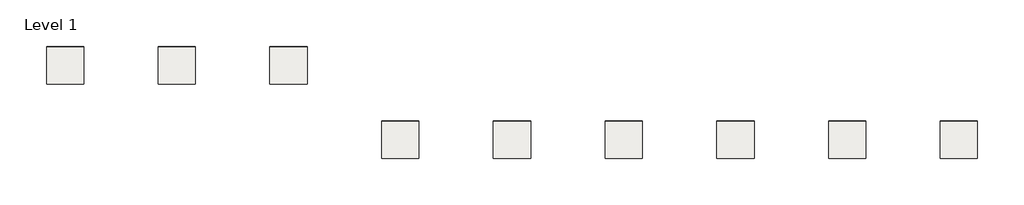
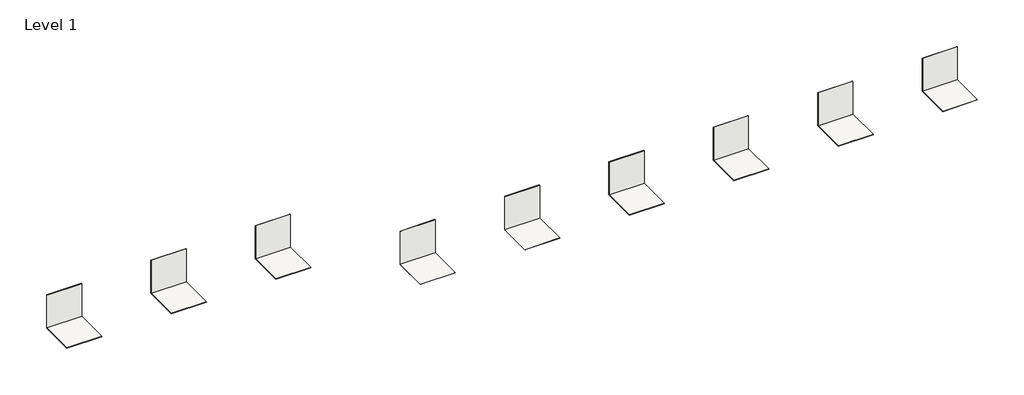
# One storey: 18 coverings.
"""IFC4 building model written with IfcOpenShell, lengths in millimetres."""

from ifc_helpers import new_model, si_unit, frame, origin, origin_with_axes, place, context, project, spatial, polyline, outline, extrude, element, save

model = new_model("IFC4")

# Units and contexts
model_context = context("Model", 3, world=origin())
ifc_project = project(units=[si_unit("LENGTHUNIT", "METRE", prefix="MILLI")], contexts=[model_context])

# Site, building, storey
site = spatial("IfcSite", under=ifc_project)
building = spatial("IfcBuilding", under=site)
storey = spatial("IfcBuildingStorey", under=building, Name="Level 1", Elevation=0.0)

# Coverings
placement = place(None, origin())
element("IfcCovering", 1, ObjectType="REVIGRÉS-NORDIK-DECOR-19.5x19.5-MATTRECT-LOKI ALMOND", at=placement, inside=storey, context=model_context, shape_type="SweptSolid", body=[
    extrude(outline(polyline([(-4144.7065846, 7140.2812373), (-5144.7065846, 7140.2812373), (-5144.7065846, 7150.7812373), (-4144.7065846, 7150.7812373), (-4144.7065846, 7140.2812373)])), origin_with_axes(), (0.0, 0.0, 1.0), 1000.0),
])
element("IfcCovering", 2, ObjectType="REVIGRÉS-NORDIK-DECOR-19.5x19.5-MATTRECT-LOKI ALMOND", at=placement, inside=storey, context=model_context, shape_type="SweptSolid", body=[
    extrude(outline(polyline([(-4144.7065846, 7140.2812373), (-4144.7065846, 6141.2812373), (-5144.7065846, 6141.2812373), (-5144.7065846, 7140.2812373), (-4144.7065846, 7140.2812373)])), frame((0.0, 0.0, -10.5), z_axis=(0.0, 0.0, 1.0), x_axis=(1.0, 0.0, 0.0)), (0.0, 0.0, 1.0), 10.5),
])
element("IfcCovering", 3, ObjectType="REVIGRÉS-NORDIK-DECOR-19.5x19.5-MATTRECT-LOKI HONEY", at=placement, inside=storey, context=model_context, shape_type="SweptSolid", body=[
    extrude(outline(polyline([(-1144.7065846, 7140.2812373), (-2144.7065846, 7140.2812373), (-2144.7065846, 7150.7812373), (-1144.7065846, 7150.7812373), (-1144.7065846, 7140.2812373)])), origin_with_axes(), (0.0, 0.0, 1.0), 1000.0),
])
element("IfcCovering", 4, ObjectType="REVIGRÉS-NORDIK-DECOR-19.5x19.5-MATTRECT-LOKI HONEY", at=placement, inside=storey, context=model_context, shape_type="SweptSolid", body=[
    extrude(outline(polyline([(-1144.7065846, 7140.2812373), (-1144.7065846, 6141.2812373), (-2144.7065846, 6141.2812373), (-2144.7065846, 7140.2812373), (-1144.7065846, 7140.2812373)])), frame((0.0, 0.0, -10.5), z_axis=(0.0, 0.0, 1.0), x_axis=(1.0, 0.0, 0.0)), (0.0, 0.0, 1.0), 10.5),
])
element("IfcCovering", 5, ObjectType="REVIGRÉS-NORDIK-DECOR-19.5x19.5-MATTRECT-LOKI WALNUT", at=placement, inside=storey, context=model_context, shape_type="SweptSolid", body=[
    extrude(outline(polyline([(1855.2934154, 7140.2812373), (855.2934154, 7140.2812373), (855.2934154, 7150.7812373), (1855.2934154, 7150.7812373), (1855.2934154, 7140.2812373)])), origin_with_axes(), (0.0, 0.0, 1.0), 1000.0),
])
element("IfcCovering", 6, ObjectType="REVIGRÉS-NORDIK-DECOR-19.5x19.5-MATTRECT-LOKI WALNUT", at=placement, inside=storey, context=model_context, shape_type="SweptSolid", body=[
    extrude(outline(polyline([(1855.2934154, 7140.2812373), (1855.2934154, 6141.2812373), (855.2934154, 6141.2812373), (855.2934154, 7140.2812373), (1855.2934154, 7140.2812373)])), frame((0.0, 0.0, -10.5), z_axis=(0.0, 0.0, 1.0), x_axis=(1.0, 0.0, 0.0)), (0.0, 0.0, 1.0), 10.5),
])
element("IfcCovering", 7, ObjectType="REVIGRÉS-NORDIK-DECOR-36x43-MATTRECT-GRID ALMOND", at=placement, inside=storey, context=model_context, shape_type="SweptSolid", body=[
    extrude(outline(polyline([(4855.2934154, 5140.2812373), (3855.2934154, 5140.2812373), (3855.2934154, 5150.7812373), (4855.2934154, 5150.7812373), (4855.2934154, 5140.2812373)])), origin_with_axes(), (0.0, 0.0, 1.0), 1000.0),
])
element("IfcCovering", 8, ObjectType="REVIGRÉS-NORDIK-DECOR-36x43-MATTRECT-GRID ALMOND", at=placement, inside=storey, context=model_context, shape_type="SweptSolid", body=[
    extrude(outline(polyline([(4855.2934154, 5140.2812373), (4855.2934154, 4141.2812373), (3855.2934154, 4141.2812373), (3855.2934154, 5140.2812373), (4855.2934154, 5140.2812373)])), frame((0.0, 0.0, -10.5), z_axis=(0.0, 0.0, 1.0), x_axis=(1.0, 0.0, 0.0)), (0.0, 0.0, 1.0), 10.5),
])
element("IfcCovering", 9, ObjectType="REVIGRÉS-NORDIK-DECOR-36x43-MATTRECT-GRID CHERRY", at=placement, inside=storey, context=model_context, shape_type="SweptSolid", body=[
    extrude(outline(polyline([(7855.2934154, 5140.2812373), (6855.2934154, 5140.2812373), (6855.2934154, 5150.7812373), (7855.2934154, 5150.7812373), (7855.2934154, 5140.2812373)])), origin_with_axes(), (0.0, 0.0, 1.0), 1000.0),
])
element("IfcCovering", 10, ObjectType="REVIGRÉS-NORDIK-DECOR-36x43-MATTRECT-GRID CHERRY", at=placement, inside=storey, context=model_context, shape_type="SweptSolid", body=[
    extrude(outline(polyline([(7855.2934154, 5140.2812373), (7855.2934154, 4141.2812373), (6855.2934154, 4141.2812373), (6855.2934154, 5140.2812373), (7855.2934154, 5140.2812373)])), frame((0.0, 0.0, -10.5), z_axis=(0.0, 0.0, 1.0), x_axis=(1.0, 0.0, 0.0)), (0.0, 0.0, 1.0), 10.5),
])
element("IfcCovering", 11, ObjectType="REVIGRÉS-NORDIK-DECOR-36x43-MATTRECT-GRID HONEY", at=placement, inside=storey, context=model_context, shape_type="SweptSolid", body=[
    extrude(outline(polyline([(10855.2934154, 5140.2812373), (9855.2934154, 5140.2812373), (9855.2934154, 5150.7812373), (10855.2934154, 5150.7812373), (10855.2934154, 5140.2812373)])), origin_with_axes(), (0.0, 0.0, 1.0), 1000.0),
])
element("IfcCovering", 12, ObjectType="REVIGRÉS-NORDIK-DECOR-36x43-MATTRECT-GRID HONEY", at=placement, inside=storey, context=model_context, shape_type="SweptSolid", body=[
    extrude(outline(polyline([(10855.2934154, 5140.2812373), (10855.2934154, 4141.2812373), (9855.2934154, 4141.2812373), (9855.2934154, 5140.2812373), (10855.2934154, 5140.2812373)])), frame((0.0, 0.0, -10.5), z_axis=(0.0, 0.0, 1.0), x_axis=(1.0, 0.0, 0.0)), (0.0, 0.0, 1.0), 10.5),
])
element("IfcCovering", 13, ObjectType="REVIGRÉS-NORDIK-DECOR-36x43-MATTRECT-GRID TAUPE", at=placement, inside=storey, context=model_context, shape_type="SweptSolid", body=[
    extrude(outline(polyline([(13855.2934154, 5140.2812373), (12855.2934154, 5140.2812373), (12855.2934154, 5150.7812373), (13855.2934154, 5150.7812373), (13855.2934154, 5140.2812373)])), origin_with_axes(), (0.0, 0.0, 1.0), 1000.0),
])
element("IfcCovering", 14, ObjectType="REVIGRÉS-NORDIK-DECOR-36x43-MATTRECT-GRID TAUPE", at=placement, inside=storey, context=model_context, shape_type="SweptSolid", body=[
    extrude(outline(polyline([(13855.2934154, 5140.2812373), (13855.2934154, 4141.2812373), (12855.2934154, 4141.2812373), (12855.2934154, 5140.2812373), (13855.2934154, 5140.2812373)])), frame((0.0, 0.0, -10.5), z_axis=(0.0, 0.0, 1.0), x_axis=(1.0, 0.0, 0.0)), (0.0, 0.0, 1.0), 10.5),
])
element("IfcCovering", 15, ObjectType="REVIGRÉS-NORDIK-DECOR-36x43-MATTRECT-GRID WALNUT", at=placement, inside=storey, context=model_context, shape_type="SweptSolid", body=[
    extrude(outline(polyline([(16855.2934154, 5140.2812373), (15855.2934154, 5140.2812373), (15855.2934154, 5150.7812373), (16855.2934154, 5150.7812373), (16855.2934154, 5140.2812373)])), origin_with_axes(), (0.0, 0.0, 1.0), 1000.0),
])
element("IfcCovering", 16, ObjectType="REVIGRÉS-NORDIK-DECOR-36x43-MATTRECT-GRID WALNUT", at=placement, inside=storey, context=model_context, shape_type="SweptSolid", body=[
    extrude(outline(polyline([(16855.2934154, 5140.2812373), (16855.2934154, 4141.2812373), (15855.2934154, 4141.2812373), (15855.2934154, 5140.2812373), (16855.2934154, 5140.2812373)])), frame((0.0, 0.0, -10.5), z_axis=(0.0, 0.0, 1.0), x_axis=(1.0, 0.0, 0.0)), (0.0, 0.0, 1.0), 10.5),
])
element("IfcCovering", 17, ObjectType="REVIGRÉS-NORDIK-DECOR-36x43-MATTRECT-GRID WHITE", at=placement, inside=storey, context=model_context, shape_type="SweptSolid", body=[
    extrude(outline(polyline([(19855.2934154, 5140.2812373), (18855.2934154, 5140.2812373), (18855.2934154, 5150.7812373), (19855.2934154, 5150.7812373), (19855.2934154, 5140.2812373)])), origin_with_axes(), (0.0, 0.0, 1.0), 1000.0),
])
element("IfcCovering", 18, ObjectType="REVIGRÉS-NORDIK-DECOR-36x43-MATTRECT-GRID WHITE", at=placement, inside=storey, context=model_context, shape_type="SweptSolid", body=[
    extrude(outline(polyline([(19855.2934154, 5140.2812373), (19855.2934154, 4141.2812373), (18855.2934154, 4141.2812373), (18855.2934154, 5140.2812373), (19855.2934154, 5140.2812373)])), frame((0.0, 0.0, -10.5), z_axis=(0.0, 0.0, 1.0), x_axis=(1.0, 0.0, 0.0)), (0.0, 0.0, 1.0), 10.5),
])

save(model, "model.ifc")
